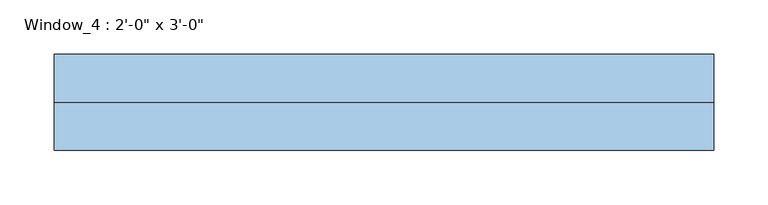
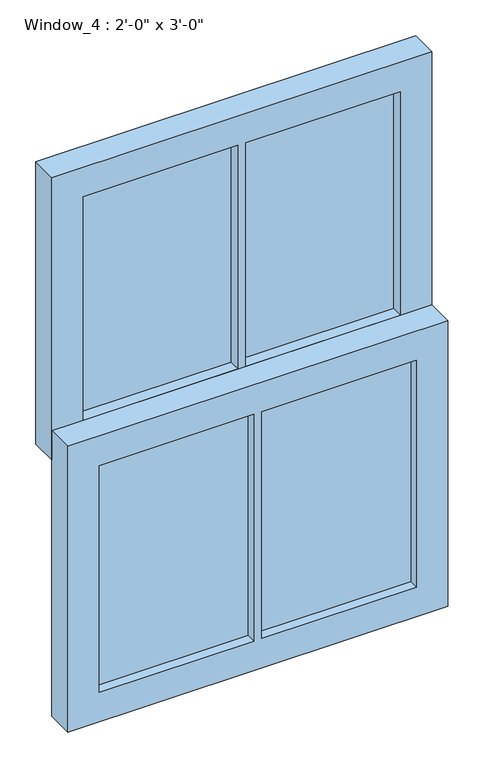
"""IFC4 building model written with IfcOpenShell, lengths in millimetres: window geometry."""

from ifc_helpers import new_model, si_unit, frame, origin, place, context, project, spatial, polyline, outline, extrude, source, transform, mapped, element, save


def window_c6721ae3(model_context):
    return source(origin(), model_context, "Body", "SweptSolid", [
        extrude(outline(polyline([(-6.35, 57.15), (-254.8, 57.15), (-254.8, 64.0853592), (-6.35, 64.0853592), (-6.35, 57.15)])), frame((0.0, 0.0, 1323.175), z_axis=(0.0, 0.0, 1.0), x_axis=(1.0, 0.0, 0.0)), (0.0, 0.0, 1.0), 379.425),
        extrude(outline(polyline([(254.8, 57.15), (6.35, 57.15), (6.35, 64.0853592), (254.8, 64.0853592), (254.8, 57.15)])), frame((0.0, 0.0, 1323.175), z_axis=(0.0, 0.0, 1.0), x_axis=(1.0, 0.0, 0.0)), (0.0, 0.0, 1.0), 379.425),
        extrude(outline(polyline([(1752.6, -304.8), (1273.175, -304.8), (1273.175, 304.8), (1752.6, 304.8), (1752.6, -304.8)]), holes=[polyline([(1702.6, 6.35), (1702.6, 254.8), (1323.175, 254.8), (1323.175, 6.35), (1702.6, 6.35)]), polyline([(1323.175, -254.8), (1702.6, -254.8), (1702.6, -6.35), (1323.175, -6.35), (1323.175, -254.8)])]), frame((0.0, 38.1, 0.0), z_axis=(0.0, 1.0, 0.0), x_axis=(0.0, 0.0, 1.0)), (0.0, 0.0, 1.0), 44.45),
        extrude(outline(polyline([(6.35, 22.225), (254.8, 22.225), (254.8, 9.525), (6.35, 9.525), (6.35, 22.225)])), frame((0.0, 0.0, 888.2), z_axis=(0.0, 0.0, 1.0), x_axis=(1.0, 0.0, 0.0)), (0.0, 0.0, 1.0), 384.975),
        extrude(outline(polyline([(-254.8, 22.225), (-6.35, 22.225), (-6.35, 9.525), (-254.8, 9.525), (-254.8, 22.225)])), frame((0.0, 0.0, 888.2), z_axis=(0.0, 0.0, 1.0), x_axis=(1.0, 0.0, 0.0)), (0.0, 0.0, 1.0), 384.975),
        extrude(outline(polyline([(1323.175, -304.8), (838.2, -304.8), (838.2, 304.8), (1323.175, 304.8), (1323.175, -304.8)]), holes=[polyline([(888.2, -254.8), (1273.175, -254.8), (1273.175, -6.35), (888.2, -6.35), (888.2, -254.8)]), polyline([(1273.175, 6.35), (1273.175, 254.8), (888.2, 254.8), (888.2, 6.35), (1273.175, 6.35)])]), frame((0.0, -6.35, 0.0), z_axis=(0.0, 1.0, 0.0), x_axis=(0.0, 0.0, 1.0)), (0.0, 0.0, 1.0), 44.45),
    ])


if __name__ == "__main__":
    model = new_model("IFC4")
    model_context = context("Model", 3, world=origin())
    ifc_project = project(units=[si_unit("LENGTHUNIT", "METRE", prefix="MILLI")], contexts=[model_context])
    site = spatial("IfcSite", under=ifc_project)
    building = spatial("IfcBuilding", under=site)
    placement = place(None, origin())
    window_shape = window_c6721ae3(model_context)
    element("IfcWindow", 1, ObjectType="Window_4 : 2'-0\" x 3'-0\"", at=placement, inside=building, context=model_context, shape_type="MappedRepresentation", body=[
        mapped(window_shape, transform((0.0, 0.0, 0.0), x_axis=(1.0, 0.0, 0.0), y_axis=(0.0, 1.0, 0.0), z_axis=(0.0, 0.0, 1.0))),
    ])
    save(model, "model.ifc")
